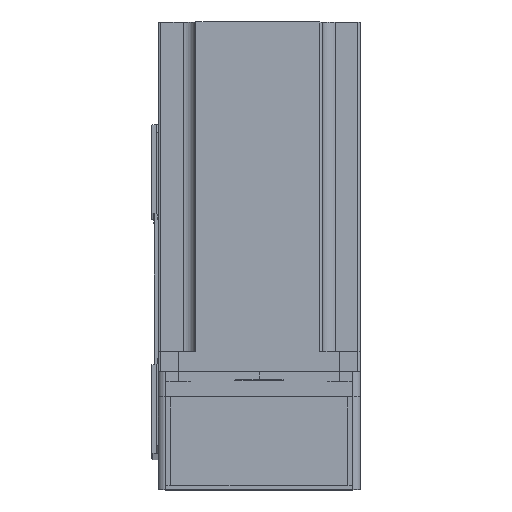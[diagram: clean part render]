
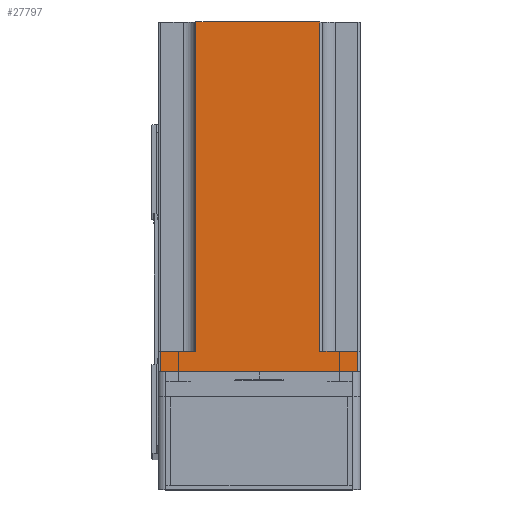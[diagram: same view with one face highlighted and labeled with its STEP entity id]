
A CAD part, top view. The second image highlights one B-rep face of the part: STEP entity #27797.
In plain terms, the highlighted planar face has unit normal (0, 0, 1) as drawn and (-1, 0, 0) by its records, which use the part's own axes.
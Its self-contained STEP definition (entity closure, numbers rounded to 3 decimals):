
#1705 = EDGE_CURVE ( 'NONE', #11536, #23616, #13499, .T. ) ;
#2877 = CARTESIAN_POINT ( 'NONE',  ( -40., -24., 138.3 ) ) ;
#3225 = AXIS2_PLACEMENT_3D ( 'NONE', #39710, #14654, #43913 ) ;
#4045 = LINE ( 'NONE', #44635, #37465 ) ;
#4765 = EDGE_CURVE ( 'NONE', #25810, #45728, #9138, .T. ) ;
#4767 = LINE ( 'NONE', #8070, #30921 ) ;
#4979 = FACE_OUTER_BOUND ( 'NONE', #46709, .T. ) ;
#5283 = ORIENTED_EDGE ( 'NONE', *, *, #49925, .F. ) ;
#5465 = CARTESIAN_POINT ( 'NONE',  ( -40., -40., 8. ) ) ;
#5522 = DIRECTION ( 'NONE',  ( 0., 0., -1. ) ) ;
#6137 = VECTOR ( 'NONE', #48385, 1000. ) ;
#6791 = ORIENTED_EDGE ( 'NONE', *, *, #47189, .T. ) ;
#7173 = EDGE_CURVE ( 'NONE', #23790, #45728, #17330, .T. ) ;
#7208 = CARTESIAN_POINT ( 'NONE',  ( -40., -24., 138.3 ) ) ;
#8070 = CARTESIAN_POINT ( 'NONE',  ( -40., 40., 8. ) ) ;
#9138 = LINE ( 'NONE', #7208, #30030 ) ;
#11060 = LINE ( 'NONE', #30540, #43146 ) ;
#11536 = VERTEX_POINT ( 'NONE', #39607 ) ;
#11969 = LINE ( 'NONE', #5465, #53878 ) ;
#12900 = ORIENTED_EDGE ( 'NONE', *, *, #1705, .T. ) ;
#13499 = LINE ( 'NONE', #27771, #44250 ) ;
#13716 = CARTESIAN_POINT ( 'NONE',  ( -40., 25., 8. ) ) ;
#14654 = DIRECTION ( 'NONE',  ( 1., 0., 0. ) ) ;
#16097 = LINE ( 'NONE', #13716, #27177 ) ;
#16336 = CARTESIAN_POINT ( 'NONE',  ( -40., 25., 138.3 ) ) ;
#17330 = LINE ( 'NONE', #39794, #6137 ) ;
#18490 = ORIENTED_EDGE ( 'NONE', *, *, #45723, .T. ) ;
#19629 = EDGE_CURVE ( 'NONE', #38775, #23790, #16097, .T. ) ;
#20072 = VERTEX_POINT ( 'NONE', #28996 ) ;
#23616 = VERTEX_POINT ( 'NONE', #48161 ) ;
#23790 = VERTEX_POINT ( 'NONE', #16336 ) ;
#25198 = ORIENTED_EDGE ( 'NONE', *, *, #31572, .T. ) ;
#25810 = VERTEX_POINT ( 'NONE', #53158 ) ;
#27177 = VECTOR ( 'NONE', #38737, 1000. ) ;
#27771 = CARTESIAN_POINT ( 'NONE',  ( -40., -39., 138.3 ) ) ;
#27797 = ADVANCED_FACE ( 'NONE', ( #4979 ), #38577, .F. ) ;
#28996 = CARTESIAN_POINT ( 'NONE',  ( -40., 39., 8. ) ) ;
#30030 = VECTOR ( 'NONE', #40718, 1000. ) ;
#30540 = CARTESIAN_POINT ( 'NONE',  ( -40., 39., 138.3 ) ) ;
#30921 = VECTOR ( 'NONE', #33101, 1000. ) ;
#31572 = EDGE_CURVE ( 'NONE', #38775, #20072, #4767, .T. ) ;
#32579 = CARTESIAN_POINT ( 'NONE',  ( -40., 25., 8. ) ) ;
#33101 = DIRECTION ( 'NONE',  ( 0., 1., 0. ) ) ;
#33869 = ORIENTED_EDGE ( 'NONE', *, *, #7173, .F. ) ;
#37465 = VECTOR ( 'NONE', #53045, 1000. ) ;
#38577 = PLANE ( 'NONE',  #3225 ) ;
#38737 = DIRECTION ( 'NONE',  ( 0., 0., 1. ) ) ;
#38775 = VERTEX_POINT ( 'NONE', #32579 ) ;
#38937 = DIRECTION ( 'NONE',  ( 0., -1., 0. ) ) ;
#39354 = CARTESIAN_POINT ( 'NONE',  ( -40., 39., 0. ) ) ;
#39607 = CARTESIAN_POINT ( 'NONE',  ( -40., -39., 0. ) ) ;
#39710 = CARTESIAN_POINT ( 'NONE',  ( -40., -40., 138.3 ) ) ;
#39794 = CARTESIAN_POINT ( 'NONE',  ( -40., -40., 138.3 ) ) ;
#40407 = DIRECTION ( 'NONE',  ( 0., 0., 1. ) ) ;
#40718 = DIRECTION ( 'NONE',  ( 0., 0., 1. ) ) ;
#41435 = ORIENTED_EDGE ( 'NONE', *, *, #19629, .F. ) ;
#43146 = VECTOR ( 'NONE', #5522, 1000. ) ;
#43913 = DIRECTION ( 'NONE',  ( 0., 0., -1. ) ) ;
#44250 = VECTOR ( 'NONE', #40407, 1000. ) ;
#44635 = CARTESIAN_POINT ( 'NONE',  ( -40., -40., 0. ) ) ;
#45723 = EDGE_CURVE ( 'NONE', #51130, #11536, #4045, .T. ) ;
#45728 = VERTEX_POINT ( 'NONE', #2877 ) ;
#46311 = ORIENTED_EDGE ( 'NONE', *, *, #4765, .T. ) ;
#46709 = EDGE_LOOP ( 'NONE', ( #5283, #46311, #33869, #41435, #25198, #6791, #18490, #12900 ) ) ;
#47189 = EDGE_CURVE ( 'NONE', #20072, #51130, #11060, .T. ) ;
#48161 = CARTESIAN_POINT ( 'NONE',  ( -40., -39., 8. ) ) ;
#48385 = DIRECTION ( 'NONE',  ( 0., -1., 0. ) ) ;
#49925 = EDGE_CURVE ( 'NONE', #25810, #23616, #11969, .T. ) ;
#51130 = VERTEX_POINT ( 'NONE', #39354 ) ;
#53045 = DIRECTION ( 'NONE',  ( 0., -1., 0. ) ) ;
#53158 = CARTESIAN_POINT ( 'NONE',  ( -40., -24., 8. ) ) ;
#53878 = VECTOR ( 'NONE', #38937, 1000. ) ;
